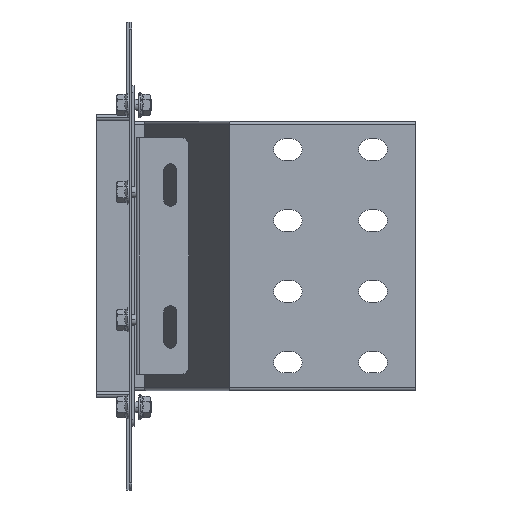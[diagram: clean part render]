
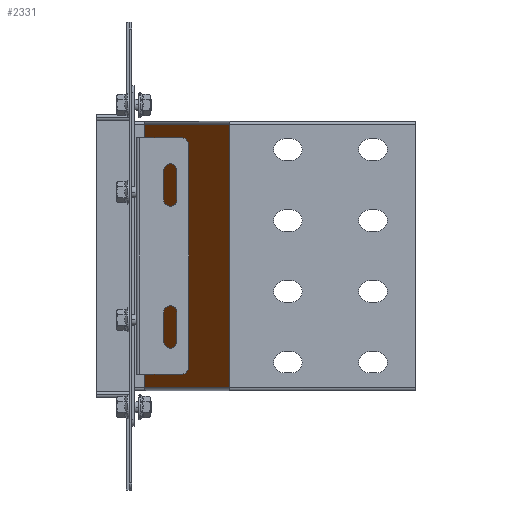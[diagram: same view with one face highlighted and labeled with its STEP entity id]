
A CAD part, front view. The second image highlights one B-rep face of the part: STEP entity #2331.
In plain terms, the highlighted planar face has unit normal (-0.922, -0.388, 0).
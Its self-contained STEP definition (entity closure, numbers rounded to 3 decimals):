
#2311=AXIS2_PLACEMENT_3D('Plane Axis2P3D',#2308,#2309,#2310) ;
#1811=CARTESIAN_POINT('Vertex',(68.638,-152.05,-92.95)) ;
#1825=CARTESIAN_POINT('Vertex',(68.638,-152.05,92.95)) ;
#1828=CARTESIAN_POINT('Line Origine',(68.638,-152.05,0.)) ;
#2274=CARTESIAN_POINT('Line Origine',(38.11,-79.44,-92.95)) ;
#2278=CARTESIAN_POINT('Vertex',(8.638,-9.34,-92.95)) ;
#2308=CARTESIAN_POINT('Axis2P3D Location',(69.166,-153.305,-92.95)) ;
#2313=CARTESIAN_POINT('Line Origine',(38.638,-80.695,92.95)) ;
#2317=CARTESIAN_POINT('Vertex',(8.638,-9.34,92.95)) ;
#2320=CARTESIAN_POINT('Line Origine',(8.638,-9.34,0.)) ;
#1829=DIRECTION('Vector Direction',(0.,0.,1.)) ;
#2275=DIRECTION('Vector Direction',(0.388,-0.922,0.)) ;
#2309=DIRECTION('Axis2P3D Direction',(-0.922,-0.388,0.)) ;
#2310=DIRECTION('Axis2P3D XDirection',(0.,0.,1.)) ;
#2314=DIRECTION('Vector Direction',(-0.388,0.922,0.)) ;
#2321=DIRECTION('Vector Direction',(0.,0.,1.)) ;
#1830=VECTOR('Line Direction',#1829,1.) ;
#2276=VECTOR('Line Direction',#2275,1.) ;
#2315=VECTOR('Line Direction',#2314,1.) ;
#2322=VECTOR('Line Direction',#2321,1.) ;
#2326=ORIENTED_EDGE('',*,*,#2319,.T.) ;
#2327=ORIENTED_EDGE('',*,*,#2324,.F.) ;
#2328=ORIENTED_EDGE('',*,*,#2280,.F.) ;
#2329=ORIENTED_EDGE('',*,*,#1832,.T.) ;
#2331=ADVANCED_FACE('N',(#2330),#2312,.T.) ;
#1832=EDGE_CURVE('',#1812,#1826,#1831,.T.) ;
#2280=EDGE_CURVE('',#1812,#2279,#2277,.F.) ;
#2319=EDGE_CURVE('',#1826,#2318,#2316,.T.) ;
#2324=EDGE_CURVE('',#2279,#2318,#2323,.T.) ;
#2325=EDGE_LOOP('',(#2326,#2327,#2328,#2329)) ;
#2330=FACE_OUTER_BOUND('',#2325,.T.) ;
#1831=LINE('Line',#1828,#1830) ;
#2277=LINE('Line',#2274,#2276) ;
#2316=LINE('Line',#2313,#2315) ;
#2323=LINE('Line',#2320,#2322) ;
#2312=PLANE('',#2311) ;
#1812=VERTEX_POINT('',#1811) ;
#1826=VERTEX_POINT('',#1825) ;
#2279=VERTEX_POINT('',#2278) ;
#2318=VERTEX_POINT('',#2317) ;
